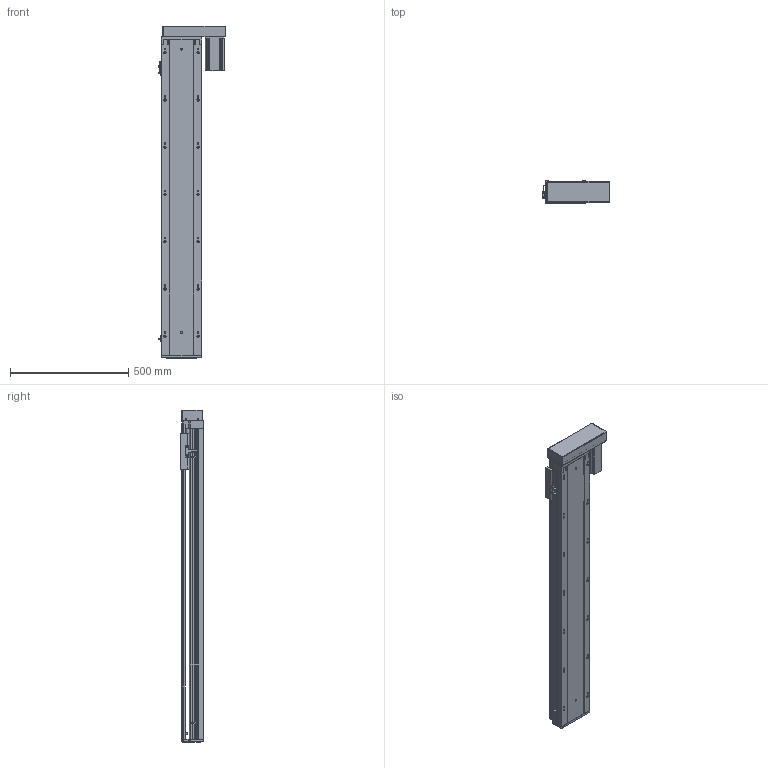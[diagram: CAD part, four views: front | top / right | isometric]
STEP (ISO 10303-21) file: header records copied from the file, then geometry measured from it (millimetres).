
FILE_DESCRIPTION (( 'STEP AP203' ), '1' );
FILE_NAME ('RY170-L2510-300-RK.SLDASM_1100.step', '2021-03-12T09:18:42', ( '盈信电脑' ), ( '东莞市道滘镇水果街19号' ), 'SwSTEP 2.0', 'SolidWorks 2012', '' );
FILE_SCHEMA (( 'CONFIG_CONTROL_DESIGN' ));
Products named in the file (14): RY170-L2510-300-RK.SLDASM_1100; RY170外置感应片(200共用）; RY170-酘衵殏750W萇儂傷; 覜茼ん672; 怢湛750W萇儂ㄗ80遺ㄘ; RY170-左右折电机安装板750W; RY170转折电机端支撑座(7004); RY170酘衵殏萇儂欶750W; 滅袉蝶18-10; 滅袉蝶18-20; RY170-300倰第裔啣-RK_1100; RY170綴裔啣; RY170-300倰第菁釱-RK_1100; 改造-RY170铝滑块25丝杆螺母
Assembly tree (15 placements, depth 3):
  RY170-L2510-300-RK.SLDASM_1100
    RY170-300倰第菁釱-RK_1100
    改造-RY170铝滑块25丝杆螺母
    RY170-300倰第裔啣-RK_1100
    RY170綴裔啣
    滅袉蝶18-20
    滅袉蝶18-10
    RY170转折电机端支撑座(7004)
    RY170-酘衵殏750W萇儂傷
      RY170-左右折电机安装板750W
      RY170酘衵殏萇儂欶750W
      怢湛750W萇儂ㄗ80遺ㄘ
    覜茼ん672  x3
    RY170外置感应片(200共用）
Bounding box: 286.2 x 97 x 1405 mm (x, y, z)
Volume: 7634128.8 mm3; surface area: 2399209.2 mm2
Topology: 14 solids, 14 shells, 2199 faces, 6278 edges, 4022 vertices
Faces by surface type: plane 1086, cylinder 904, cone 190, bspline 19
Entity records: 70675 total; most frequent: CARTESIAN_POINT 16753, ORIENTED_EDGE 11268, DIRECTION 10502, EDGE_CURVE 5634, VERTEX_POINT 3702, AXIS2_PLACEMENT_3D 3509, VECTOR 3484, LINE 3484
